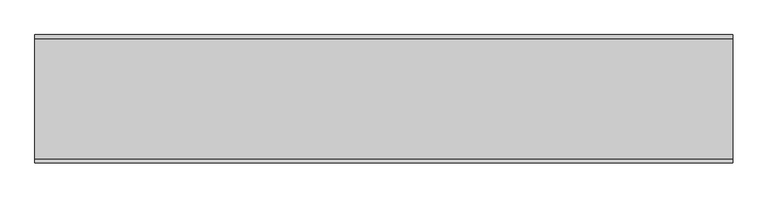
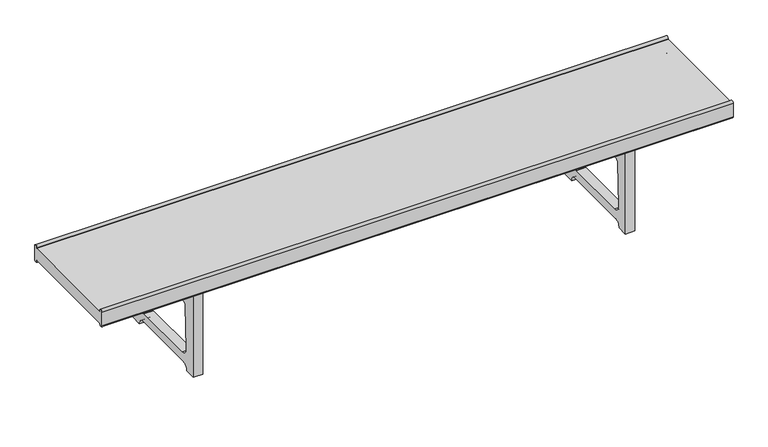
"""IFC4 building model written with IfcOpenShell, lengths in millimetres: furniture geometry, Krobo 200 : Krobo 200."""

from ifc_helpers import new_model, si_unit, frame, origin, place, context, project, spatial, polyline, circle_curve, outline, extrude, source, transform, mapped, element, save
from ifc_brep_helpers import plane_surface, cylinder_surface, revolved_surface, advanced_brep


def furniture_33109094(model_context):
    return source(origin(), model_context, "Body", "SolidModel", [
        advanced_brep(
        [(573.0486284, -244.1720243, 331.4777934), (573.0486284, -244.1720243, 334.5), (573.0486284, -255.1720243, 334.5), (573.0486284, -255.1720243, 288.4555868), (573.0486284, -244.1720243, 288.4555868), (573.0486284, -244.1720243, 291.4777934), (573.0486284, 101.8279757, 291.4777934), (573.0486284, 101.8279757, 288.4555868), (573.0486284, 112.8279757, 288.4555868), (573.0486284, 112.8279757, 334.5), (573.0486284, 101.8279757, 334.5), (573.0486284, 101.8279757, 331.4777934), (-1426.9513716, -244.1720243, 331.4777934), (-1426.9513716, 101.8279757, 331.4777934), (-1426.9513716, 101.8279757, 334.5), (-1426.9513716, 112.8279757, 334.5), (-1426.9513716, 112.8279757, 288.4555868), (-1426.9513716, 101.8279757, 288.4555868), (-1426.9513716, 101.8279757, 291.4777934), (-1426.9513716, -244.1720243, 291.4777934), (-1426.9513716, -244.1720243, 288.4555868), (-1426.9513716, -255.1720243, 288.4555868), (-1426.9513716, -255.1720243, 334.5), (-1426.9513716, -244.1720243, 334.5), (272.9865002, -236.1720243, 291.4777934), (272.9865002, 93.8279757, 291.4777934), (242.9865002, 93.8279757, 291.4777934), (242.9865002, -236.1720243, 291.4777934), (-1126.8892434, 93.8279757, 291.4777934), (-1126.8892434, -236.1720243, 291.4777934), (-1096.8892434, -236.1720243, 291.4777934), (-1096.8892434, 93.8279757, 291.4777934), (272.9865002, -236.1720243, 0.0), (272.9865002, -201.3096263, 0.0), (272.9865002, -181.4216509, 20.0), (272.9865002, 39.0776023, 20.0), (272.9865002, 58.9655776, 0.0), (272.9865002, 93.8279757, 0.0), (272.9865002, 38.5085476, 221.4777934), (272.9865002, 48.500643, 211.8753226), (272.9865002, 54.0851268, 71.5065322), (272.9865002, 34.2919318, 48.6378341), (272.9865002, -176.6359804, 48.6378341), (272.9865002, -196.4291755, 71.5065322), (272.9865002, -190.8446916, 211.8753226), (272.9865002, -180.8525962, 221.4777934), (242.9865002, -236.1720243, 0.0), (242.9865002, 93.8279757, 0.0), (242.9865002, 58.9655776, 0.0), (242.9865002, 39.0776023, 20.0), (242.9865002, -181.4216509, 20.0), (242.9865002, -201.3096263, 0.0), (242.9865002, 38.5085476, 221.4777934), (242.9865002, -180.8525962, 221.4777934), (242.9865002, -190.8446916, 211.8753226), (242.9865002, -196.4291755, 71.5065322), (242.9865002, -176.6359804, 48.6378341), (242.9865002, 34.2919318, 48.6378341), (242.9865002, 54.0851268, 71.5065322), (242.9865002, 48.500643, 211.8753226), (-1126.8892434, -236.1720243, 0.0), (-1126.8892434, 93.8279757, 0.0), (-1126.8892434, 58.9655776, 0.0), (-1126.8892434, 39.0776023, 20.0), (-1126.8892434, -181.4216509, 20.0), (-1126.8892434, -201.3096263, 0.0), (-1126.8892434, 38.5085476, 221.4777934), (-1126.8892434, -180.8525962, 221.4777934), (-1126.8892434, -190.8446916, 211.8753226), (-1126.8892434, -196.4291755, 71.5065322), (-1126.8892434, -176.6359804, 48.6378341), (-1126.8892434, 34.2919318, 48.6378341), (-1126.8892434, 54.0851268, 71.5065322), (-1126.8892434, 48.500643, 211.8753226), (-1096.8892434, -236.1720243, 0.0), (-1096.8892434, -201.3096263, 0.0), (-1096.8892434, -181.4216509, 20.0), (-1096.8892434, 39.0776023, 20.0), (-1096.8892434, 58.9655776, 0.0), (-1096.8892434, 93.8279757, 0.0), (-1096.8892434, 38.5085476, 221.4777934), (-1096.8892434, 48.500643, 211.8753226), (-1096.8892434, 54.0851268, 71.5065322), (-1096.8892434, 34.2919318, 48.6378341), (-1096.8892434, -176.6359804, 48.6378341), (-1096.8892434, -196.4291755, 71.5065322), (-1096.8892434, -190.8446916, 211.8753226), (-1096.8892434, -180.8525962, 221.4777934)],
        [
            (0, 1),
            (1, 2, circle_curve(frame((573.0486284, -249.6720243, 334.5), z_axis=(1.0, 0.0, 0.0), x_axis=(0.0, 1.0, 0.0)), 5.5)),
            (2, 3),
            (3, 4, circle_curve(frame((573.0486284, -249.6720243, 288.4555868), z_axis=(1.0, 0.0, 0.0), x_axis=(0.0, 1.0, 0.0)), 5.5)),
            (4, 5),
            (5, 6),
            (6, 7),
            (7, 8, circle_curve(frame((573.0486284, 107.3279757, 288.4555868), z_axis=(1.0, 0.0, 0.0), x_axis=(0.0, -1.0, 0.0)), 5.5)),
            (8, 9),
            (9, 10, circle_curve(frame((573.0486284, 107.3279757, 334.5), z_axis=(1.0, 0.0, 0.0), x_axis=(0.0, -1.0, 0.0)), 5.5)),
            (10, 11),
            (11, 0),
            (12, 13),
            (13, 14),
            (14, 15, circle_curve(frame((-1426.9513716, 107.3279757, 334.5), z_axis=(-1.0, 0.0, 0.0), x_axis=(0.0, -1.0, 0.0)), 5.5)),
            (15, 16),
            (16, 17, circle_curve(frame((-1426.9513716, 107.3279757, 288.4555868), z_axis=(-1.0, 0.0, 0.0), x_axis=(0.0, -1.0, 0.0)), 5.5)),
            (17, 18),
            (18, 19),
            (19, 20),
            (20, 21, circle_curve(frame((-1426.9513716, -249.6720243, 288.4555868), z_axis=(-1.0, 0.0, 0.0), x_axis=(0.0, 1.0, 0.0)), 5.5)),
            (21, 22),
            (22, 23, circle_curve(frame((-1426.9513716, -249.6720243, 334.5), z_axis=(-1.0, 0.0, 0.0), x_axis=(0.0, 1.0, 0.0)), 5.5)),
            (23, 12),
            (0, 12),
            (23, 1),
            (22, 2),
            (21, 3),
            (20, 4),
            (19, 5),
            (18, 6),
            (24, 25),
            (25, 26),
            (26, 27),
            (27, 24),
            (28, 29),
            (29, 30),
            (30, 31),
            (31, 28),
            (17, 7),
            (16, 8),
            (15, 9),
            (14, 10),
            (13, 11),
            (32, 33),
            (33, 34, circle_curve(frame((272.9865002, -181.4216509, 0.1117109), z_axis=(-1.0, 0.0, 0.0), x_axis=(0.0, -1.0, 0.0)), 19.8882891)),
            (34, 35),
            (35, 36, circle_curve(frame((272.9865002, 39.0776023, 0.1117109), z_axis=(-1.0, 0.0, 0.0), x_axis=(0.0, 1.0, 0.0)), 19.8882891)),
            (36, 37),
            (37, 25),
            (24, 32),
            (38, 39, circle_curve(frame((272.9865002, 38.5085476, 211.4777934), z_axis=(-1.0, 0.0, 0.0), x_axis=(0.0, 1.0, 0.0)), 10.0)),
            (39, 40),
            (40, 41, circle_curve(frame((272.9865002, 34.2919318, 68.6378341), z_axis=(-1.0, 0.0, 0.0), x_axis=(0.0, 1.0, 0.0)), 20.0)),
            (41, 42),
            (42, 43, circle_curve(frame((272.9865002, -176.6359804, 68.6378341), z_axis=(-1.0, 0.0, 0.0), x_axis=(0.0, -1.0, 0.0)), 20.0)),
            (43, 44),
            (44, 45, circle_curve(frame((272.9865002, -180.8525962, 211.4777934), z_axis=(-1.0, 0.0, 0.0), x_axis=(0.0, -1.0, 0.0)), 10.0)),
            (45, 38),
            (46, 27),
            (26, 47),
            (47, 48),
            (48, 49, circle_curve(frame((242.9865002, 39.0776023, 0.1117109), z_axis=(1.0, 0.0, 0.0), x_axis=(0.0, 1.0, 0.0)), 19.8882891)),
            (49, 50),
            (50, 51, circle_curve(frame((242.9865002, -181.4216509, 0.1117109), z_axis=(1.0, 0.0, 0.0), x_axis=(0.0, -1.0, 0.0)), 19.8882891)),
            (51, 46),
            (52, 53),
            (53, 54, circle_curve(frame((242.9865002, -180.8525962, 211.4777934), z_axis=(1.0, 0.0, 0.0), x_axis=(0.0, -1.0, 0.0)), 10.0)),
            (54, 55),
            (55, 56, circle_curve(frame((242.9865002, -176.6359804, 68.6378341), z_axis=(1.0, 0.0, 0.0), x_axis=(0.0, -1.0, 0.0)), 20.0)),
            (56, 57),
            (57, 58, circle_curve(frame((242.9865002, 34.2919318, 68.6378341), z_axis=(1.0, 0.0, 0.0), x_axis=(0.0, 1.0, 0.0)), 20.0)),
            (58, 59),
            (59, 52, circle_curve(frame((242.9865002, 38.5085476, 211.4777934), z_axis=(1.0, 0.0, 0.0), x_axis=(0.0, 1.0, 0.0)), 10.0)),
            (46, 32),
            (51, 33),
            (45, 53),
            (52, 38),
            (50, 34),
            (49, 35),
            (48, 36),
            (47, 37),
            (59, 39),
            (58, 40),
            (57, 41),
            (56, 42),
            (55, 43),
            (54, 44),
            (60, 29),
            (28, 61),
            (61, 62),
            (62, 63, circle_curve(frame((-1126.8892434, 39.0776023, 0.1117109), z_axis=(1.0, 0.0, 0.0), x_axis=(0.0, 1.0, 0.0)), 19.8882891)),
            (63, 64),
            (64, 65, circle_curve(frame((-1126.8892434, -181.4216509, 0.1117109), z_axis=(1.0, 0.0, 0.0), x_axis=(0.0, -1.0, 0.0)), 19.8882891)),
            (65, 60),
            (66, 67),
            (67, 68, circle_curve(frame((-1126.8892434, -180.8525962, 211.4777934), z_axis=(1.0, 0.0, 0.0), x_axis=(0.0, -1.0, 0.0)), 10.0)),
            (68, 69),
            (69, 70, circle_curve(frame((-1126.8892434, -176.6359804, 68.6378341), z_axis=(1.0, 0.0, 0.0), x_axis=(0.0, -1.0, 0.0)), 20.0)),
            (70, 71),
            (71, 72, circle_curve(frame((-1126.8892434, 34.2919318, 68.6378341), z_axis=(1.0, 0.0, 0.0), x_axis=(0.0, 1.0, 0.0)), 20.0)),
            (72, 73),
            (73, 66, circle_curve(frame((-1126.8892434, 38.5085476, 211.4777934), z_axis=(1.0, 0.0, 0.0), x_axis=(0.0, 1.0, 0.0)), 10.0)),
            (74, 75),
            (75, 76, circle_curve(frame((-1096.8892434, -181.4216509, 0.1117109), z_axis=(-1.0, 0.0, 0.0), x_axis=(0.0, -1.0, 0.0)), 19.8882891)),
            (76, 77),
            (77, 78, circle_curve(frame((-1096.8892434, 39.0776023, 0.1117109), z_axis=(-1.0, 0.0, 0.0), x_axis=(0.0, 1.0, 0.0)), 19.8882891)),
            (78, 79),
            (79, 31),
            (30, 74),
            (80, 81, circle_curve(frame((-1096.8892434, 38.5085476, 211.4777934), z_axis=(-1.0, 0.0, 0.0), x_axis=(0.0, 1.0, 0.0)), 10.0)),
            (81, 82),
            (82, 83, circle_curve(frame((-1096.8892434, 34.2919318, 68.6378341), z_axis=(-1.0, 0.0, 0.0), x_axis=(0.0, 1.0, 0.0)), 20.0)),
            (83, 84),
            (84, 85, circle_curve(frame((-1096.8892434, -176.6359804, 68.6378341), z_axis=(-1.0, 0.0, 0.0), x_axis=(0.0, -1.0, 0.0)), 20.0)),
            (85, 86),
            (86, 87, circle_curve(frame((-1096.8892434, -180.8525962, 211.4777934), z_axis=(-1.0, 0.0, 0.0), x_axis=(0.0, -1.0, 0.0)), 10.0)),
            (87, 80),
            (60, 74),
            (65, 75),
            (66, 80),
            (87, 67),
            (64, 76),
            (63, 77),
            (62, 78),
            (61, 79),
            (73, 81),
            (72, 82),
            (71, 83),
            (70, 84),
            (69, 85),
            (68, 86),
        ],
        [
            plane_surface(frame((573.0486284, -244.1720243, 311.4777934), z_axis=(1.0, 0.0, 0.0), x_axis=(0.0, 0.0, 1.0))),
            plane_surface(frame((-1426.9513716, -244.1720243, 311.4777934), z_axis=(-1.0, 0.0, 0.0), x_axis=(0.0, 0.0, -1.0))),
            plane_surface(frame((573.0486284, -244.1720243, 331.4777934), z_axis=(0.0, 1.0, 0.0), x_axis=(-1.0, 0.0, 0.0))),
            cylinder_surface(frame((-1426.9513716, -249.6720243, 334.5), z_axis=(1.0, 0.0, 0.0), x_axis=(0.0, 1.0, 0.0)), 5.5),
            plane_surface(frame((573.0486284, -255.1720243, 334.5), z_axis=(0.0, -1.0, 0.0), x_axis=(-1.0, 0.0, 0.0))),
            cylinder_surface(frame((-1426.9513716, -249.6720243, 288.4555868), z_axis=(1.0, 0.0, 0.0), x_axis=(0.0, 1.0, 0.0)), 5.5),
            plane_surface(frame((573.0486284, -244.1720243, 288.4555868), z_axis=(0.0, 1.0, 0.0), x_axis=(-1.0, 0.0, 0.0))),
            plane_surface(frame((573.0486284, -244.1720243, 291.4777934), z_axis=(0.0, 0.0, -1.0), x_axis=(-1.0, 0.0, 0.0))),
            plane_surface(frame((573.0486284, 101.8279757, 291.4777934), z_axis=(0.0, -1.0, 0.0), x_axis=(-1.0, 0.0, 0.0))),
            cylinder_surface(frame((-1426.9513716, 107.3279757, 288.4555868), z_axis=(1.0, 0.0, 0.0), x_axis=(0.0, -1.0, 0.0)), 5.5),
            plane_surface(frame((573.0486284, 112.8279757, 288.4555868), z_axis=(0.0, 1.0, 0.0), x_axis=(-1.0, 0.0, 0.0))),
            cylinder_surface(frame((-1426.9513716, 107.3279757, 334.5), z_axis=(1.0, 0.0, 0.0), x_axis=(0.0, -1.0, 0.0)), 5.5),
            plane_surface(frame((573.0486284, 101.8279757, 334.5), z_axis=(0.0, -1.0, 0.0), x_axis=(-1.0, 0.0, 0.0))),
            plane_surface(frame((573.0486284, 101.8279757, 331.4777934), z_axis=(0.0, 0.0, 1.0), x_axis=(-1.0, 0.0, 0.0))),
            plane_surface(frame((272.9865002, -221.1720243, 0.0), z_axis=(1.0, 0.0, 0.0), x_axis=(0.0, 1.0, 0.0))),
            plane_surface(frame((242.9865002, -221.1720243, 0.0), z_axis=(-1.0, 0.0, 0.0), x_axis=(0.0, -1.0, 0.0))),
            plane_surface(frame((272.9865002, -236.1720243, 291.4777934), z_axis=(0.0, -1.0, 0.0), x_axis=(-1.0, 0.0, 0.0))),
            plane_surface(frame((272.9865002, -236.1720243, 0.0), z_axis=(0.0, 0.0, -1.0), x_axis=(-1.0, 0.0, 0.0))),
            plane_surface(frame((272.9865002, -180.8525962, 221.4777934), z_axis=(0.0, 0.0, -1.0), x_axis=(-1.0, 0.0, 0.0))),
            revolved_surface(polyline([(242.9865002, -201.30994, 0.1117109), (272.9865002, -201.30994, 0.1117109)]), (242.9865002, -181.4216509, 0.1117109), (-1.0, 0.0, 0.0)),
            plane_surface(frame((272.9865002, -181.4216509, 20.0), z_axis=(0.0, 0.0, -1.0), x_axis=(-1.0, 0.0, 0.0))),
            revolved_surface(polyline([(242.9865002, 58.965891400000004, 0.1117109), (272.9865002, 58.965891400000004, 0.1117109)]), (242.9865002, 39.0776023, 0.1117109), (-1.0, 0.0, 0.0)),
            plane_surface(frame((272.9865002, 58.9655776, 0.0), z_axis=(0.0, 0.0, -1.0), x_axis=(-1.0, 0.0, 0.0))),
            plane_surface(frame((272.9865002, 93.8279757, 0.0), z_axis=(0.0, 1.0, 0.0), x_axis=(-1.0, 0.0, 0.0))),
            revolved_surface(polyline([(242.98650020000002, 48.5085476, 211.4777934), (272.9865002, 48.5085476, 211.4777934)]), (-526.1360988, 38.5085476, 211.4777934), (-1.0, 0.0, 0.0)),
            plane_surface(frame((272.9865002, 48.500643, 211.8753226), z_axis=(0.0, -0.9992095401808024, -0.03975292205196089), x_axis=(-1.0, 0.0, 0.0))),
            revolved_surface(polyline([(242.98650020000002, 54.2919318, 68.6378341), (272.9865002, 54.2919318, 68.6378341)]), (-526.1360988, 34.2919318, 68.6378341), (-1.0, 0.0, 0.0)),
            plane_surface(frame((272.9865002, 34.2919318, 48.6378341), z_axis=(0.0, 0.0, 1.0), x_axis=(-1.0, 0.0, 0.0))),
            revolved_surface(polyline([(242.98650020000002, -196.6359804, 68.6378341), (272.9865002, -196.6359804, 68.6378341)]), (-526.1360988, -176.6359804, 68.6378341), (-1.0, 0.0, 0.0)),
            plane_surface(frame((272.9865002, -196.4291755, 71.5065322), z_axis=(0.0, 0.9992095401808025, -0.03975292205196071), x_axis=(-1.0, 0.0, 0.0))),
            revolved_surface(polyline([(242.98650020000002, -190.8525962, 211.4777934), (272.9865002, -190.8525962, 211.4777934)]), (-526.1360988, -180.8525962, 211.4777934), (-1.0, 0.0, 0.0)),
            plane_surface(frame((-1126.8892434, -236.1720243, 291.4777934), z_axis=(-1.0, 0.0, 0.0), x_axis=(0.0, 0.0, 1.0))),
            plane_surface(frame((-1096.8892434, -236.1720243, 291.4777934), z_axis=(1.0, 0.0, 0.0), x_axis=(0.0, 0.0, -1.0))),
            plane_surface(frame((-1126.8892434, -236.1720243, 0.0), z_axis=(0.0, -1.0, 0.0), x_axis=(1.0, 0.0, 0.0))),
            plane_surface(frame((-1126.8892434, -201.3096263, 0.0), z_axis=(0.0, 0.0, -1.0), x_axis=(1.0, 0.0, 0.0))),
            plane_surface(frame((-1126.8892434, 38.5085476, 221.4777934), z_axis=(0.0, 0.0, -1.0), x_axis=(1.0, 0.0, 0.0))),
            revolved_surface(polyline([(-1096.8892434, -201.30994, 0.1117109), (-1126.8892434, -201.30994, 0.1117109)]), (-1096.8892434, -181.4216509, 0.1117109), (1.0, 0.0, 0.0)),
            plane_surface(frame((-1126.8892434, 39.0776023, 20.0), z_axis=(0.0, 0.0, -1.0), x_axis=(1.0, 0.0, 0.0))),
            revolved_surface(polyline([(-1096.8892434, 58.965891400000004, 0.1117109), (-1126.8892434, 58.965891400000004, 0.1117109)]), (-1096.8892434, 39.0776023, 0.1117109), (1.0, 0.0, 0.0)),
            plane_surface(frame((-1126.8892434, 93.8279757, 0.0), z_axis=(0.0, 0.0, -1.0), x_axis=(1.0, 0.0, 0.0))),
            plane_surface(frame((-1126.8892434, 93.8279757, 291.4777934), z_axis=(0.0, 1.0, 0.0), x_axis=(1.0, 0.0, 0.0))),
            revolved_surface(polyline([(-1096.8892434, 48.5085476, 211.4777934), (-1126.8892434, 48.5085476, 211.4777934)]), (-331.7045163, 38.5085476, 211.4777934), (1.0, 0.0, 0.0)),
            plane_surface(frame((-1126.8892434, 54.0851268, 71.5065322), z_axis=(0.0, -0.9992095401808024, -0.03975292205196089), x_axis=(1.0, 0.0, 0.0))),
            revolved_surface(polyline([(-1096.8892434, 54.2919318, 68.6378341), (-1126.8892434, 54.2919318, 68.6378341)]), (-331.7045163, 34.2919318, 68.6378341), (1.0, 0.0, 0.0)),
            plane_surface(frame((-1126.8892434, -176.6359804, 48.6378341), z_axis=(0.0, 0.0, 1.0), x_axis=(1.0, 0.0, 0.0))),
            revolved_surface(polyline([(-1096.8892434, -196.6359804, 68.6378341), (-1126.8892434, -196.6359804, 68.6378341)]), (-331.7045163, -176.6359804, 68.6378341), (1.0, 0.0, 0.0)),
            plane_surface(frame((-1126.8892434, -190.8446916, 211.8753226), z_axis=(0.0, 0.9992095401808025, -0.03975292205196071), x_axis=(1.0, 0.0, 0.0))),
            revolved_surface(polyline([(-1096.8892434, -190.8525962, 211.4777934), (-1126.8892434, -190.8525962, 211.4777934)]), (-331.7045163, -180.8525962, 211.4777934), (1.0, 0.0, 0.0)),
        ],
        [
            (0, [[1, 2, 3, 4, 5, 6, 7, 8, 9, 10, 11, 12]]),
            (1, [[13, 14, 15, 16, 17, 18, 19, 20, 21, 22, 23, 24]]),
            (2, [[-1, 25, -24, 26]]),
            (3, [[-2, -26, -23, 27]]),
            (4, [[-3, -27, -22, 28]]),
            (5, [[-4, -28, -21, 29]]),
            (6, [[-5, -29, -20, 30]]),
            (7, [[-6, -30, -19, 31], [32, 33, 34, 35], [36, 37, 38, 39]]),
            (8, [[-7, -31, -18, 40]]),
            (9, [[-8, -40, -17, 41]]),
            (10, [[-9, -41, -16, 42]]),
            (11, [[-10, -42, -15, 43]]),
            (12, [[-11, -43, -14, 44]]),
            (13, [[-12, -44, -13, -25]]),
            (14, [[45, 46, 47, 48, 49, 50, -32, 51], [52, 53, 54, 55, 56, 57, 58, 59]]),
            (15, [[60, -34, 61, 62, 63, 64, 65, 66], [67, 68, 69, 70, 71, 72, 73, 74]]),
            (16, [[-51, -35, -60, 75]]),
            (17, [[-45, -75, -66, 76]]),
            (18, [[-59, 77, -67, 78]]),
            (19, [[-46, -76, -65, 79]]),
            (20, [[-47, -79, -64, 80]]),
            (21, [[-48, -80, -63, 81]]),
            (22, [[-49, -81, -62, 82]]),
            (23, [[-50, -82, -61, -33]]),
            (24, [[-52, -78, -74, 83]]),
            (25, [[-53, -83, -73, 84]]),
            (26, [[-54, -84, -72, 85]]),
            (27, [[-55, -85, -71, 86]]),
            (28, [[-56, -86, -70, 87]]),
            (29, [[-57, -87, -69, 88]]),
            (30, [[-58, -88, -68, -77]]),
            (31, [[89, -36, 90, 91, 92, 93, 94, 95], [96, 97, 98, 99, 100, 101, 102, 103]]),
            (32, [[104, 105, 106, 107, 108, 109, -38, 110], [111, 112, 113, 114, 115, 116, 117, 118]]),
            (33, [[-89, 119, -110, -37]]),
            (34, [[-95, 120, -104, -119]]),
            (35, [[-96, 121, -118, 122]]),
            (36, [[-94, 123, -105, -120]]),
            (37, [[-93, 124, -106, -123]]),
            (38, [[-92, 125, -107, -124]]),
            (39, [[-91, 126, -108, -125]]),
            (40, [[-90, -39, -109, -126]]),
            (41, [[-103, 127, -111, -121]]),
            (42, [[-102, 128, -112, -127]]),
            (43, [[-101, 129, -113, -128]]),
            (44, [[-100, 130, -114, -129]]),
            (45, [[-99, 131, -115, -130]]),
            (46, [[-98, 132, -116, -131]]),
            (47, [[-97, -122, -117, -132]]),
        ],
    ),
        extrude(outline(polyline([(221.4777934, -1096.8892434), (221.4777934, -1126.8892434), (291.4777934, -1253.1725863), (291.4777934, -1293.1725863), (288.4777934, -1293.1725863), (288.4777934, -1253.9484391), (218.4777934, -1127.6650962), (218.4777934, -1096.1133907), (288.4777934, -969.8300478), (288.4777934, -930.6059006), (291.4777934, -930.6059006), (291.4777934, -970.6059006), (221.4777934, -1096.8892434)])), frame((0.0, -91.1720243, 0.0), z_axis=(0.0, 1.0, 0.0), x_axis=(0.0, 0.0, 1.0)), (0.0, 0.0, 1.0), 40.0),
        extrude(outline(polyline([(221.4777934, 242.9865002), (291.4777934, 116.7031574), (291.4777934, 76.7031574), (288.4777934, 76.7031574), (288.4777934, 115.9273046), (218.4777934, 242.2106475), (218.4777934, 273.762353), (288.4777934, 400.0456959), (288.4777934, 439.2698431), (291.4777934, 439.2698431), (291.4777934, 399.2698431), (221.4777934, 272.9865002), (221.4777934, 242.9865002)])), frame((0.0, -91.1720243, 0.0), z_axis=(0.0, 1.0, 0.0), x_axis=(0.0, 0.0, 1.0)), (0.0, 0.0, 1.0), 40.0),
    ])


if __name__ == "__main__":
    model = new_model("IFC4")
    model_context = context("Model", 3, world=origin())
    ifc_project = project(units=[si_unit("LENGTHUNIT", "METRE", prefix="MILLI")], contexts=[model_context])
    site = spatial("IfcSite", under=ifc_project)
    building = spatial("IfcBuilding", under=site)
    placement = place(None, origin())
    furniture_shape = furniture_33109094(model_context)
    element("IfcFurniture", 1, ObjectType="Krobo 200 : Krobo 200", at=placement, inside=building, context=model_context, shape_type="MappedRepresentation", body=[
        mapped(furniture_shape, transform((0.0, 0.0, 0.0), x_axis=(1.0, 0.0, 0.0), y_axis=(0.0, 1.0, 0.0), z_axis=(0.0, 0.0, 1.0))),
    ])
    save(model, "model.ifc")
